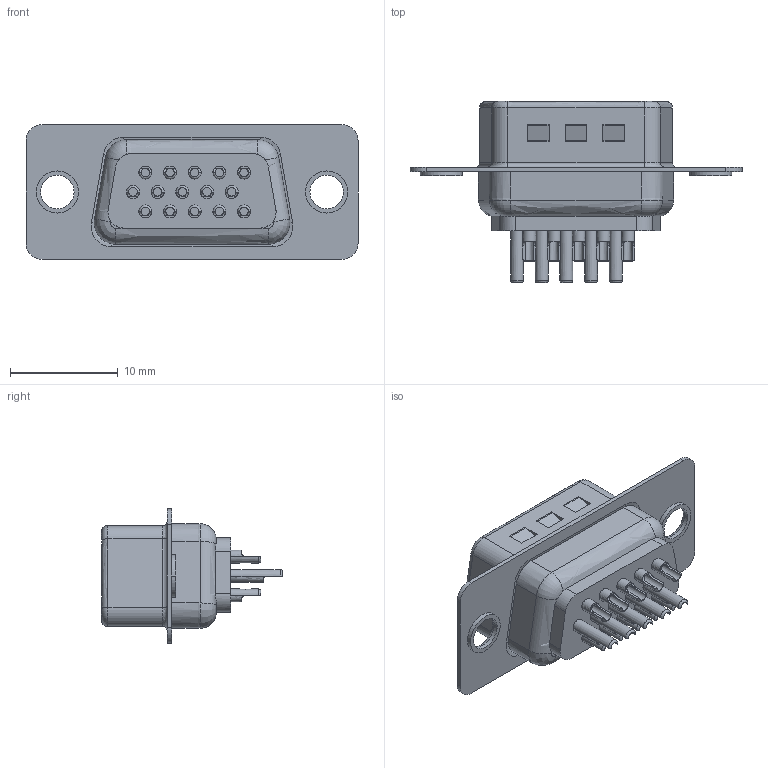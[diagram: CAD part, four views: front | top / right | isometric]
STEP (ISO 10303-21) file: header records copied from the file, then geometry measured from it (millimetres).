
FILE_DESCRIPTION(/* description */ (''),/* implementation_level */ '2;1');
FILE_NAME(/* name */ '100222203ugm000_a.stp',/* time_stamp */ '2014-03-18T16:45:57+01:00',/* author */ (''),/* organization */ (''),/* preprocessor_version */ 'ST-DEVELOPER v15',/* originating_system */ 'SIEMENS PLM Software NX 8.5',/* authorisation */ '');
FILE_SCHEMA (('AUTOMOTIVE_DESIGN { 1 0 10303 214 3 1 1 1 }'));
Length unit declared in the file: millimetre
Products named in the file (1): 100222203ugm000_a
Bounding box: 30.8 x 16.8 x 12.5 mm (x, y, z)
Volume: 1052.5 mm3; surface area: 2235.9 mm2
Topology: 2 solids, 19 shells, 478 faces, 1380 edges, 1786 vertices
Faces by surface type: revolution 311, plane 163, bspline 4
Entity records: 20417 total; most frequent: CARTESIAN_POINT 4883, DIRECTION 2320, ORIENTED_EDGE 2138, EDGE_CURVE 1069, PRESENTATION_STYLE_ASSIGNMENT 916, STYLED_ITEM 876, LINE 761, VECTOR 761
